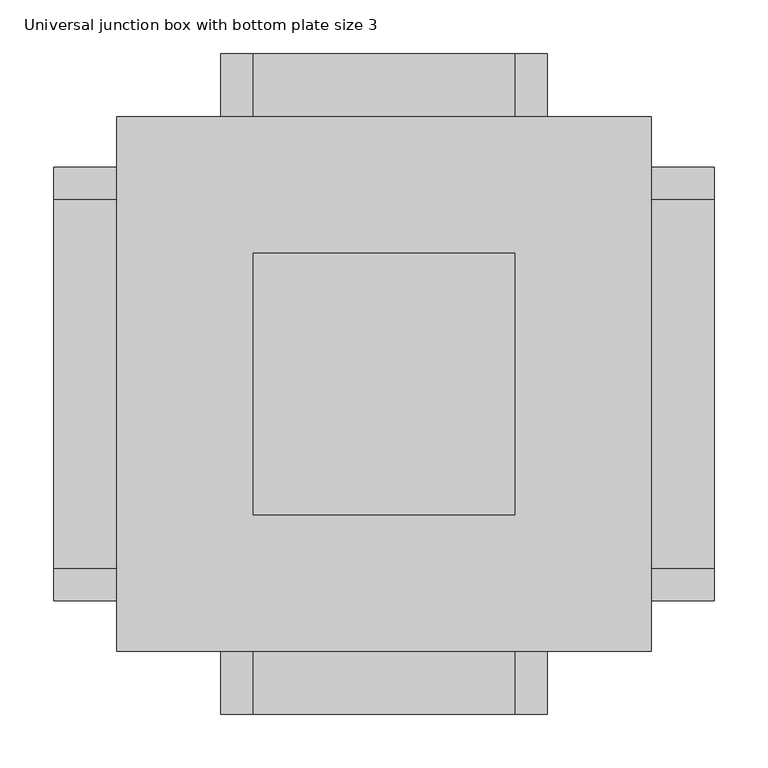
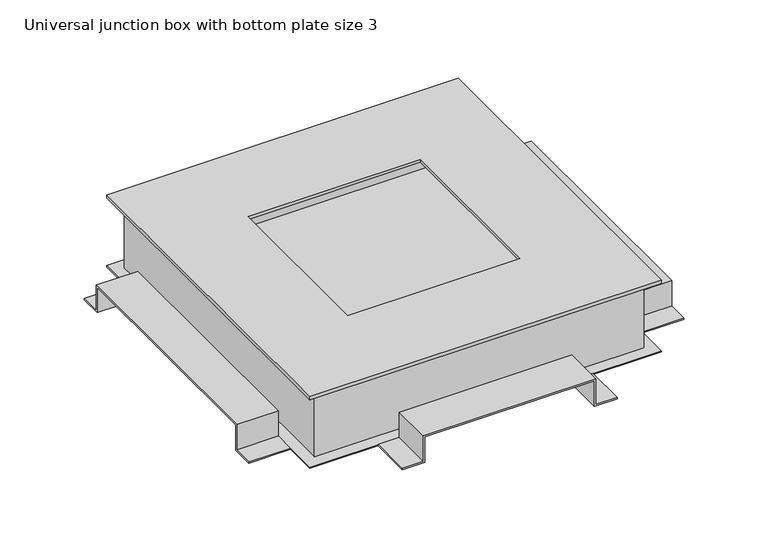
"""IFC4 building model written with IfcOpenShell, lengths in millimetres: cable carrier fitting geometry, Electrical-Installations_Hager_Universal-Junction-Box-With-Bottom-Plate-Size-3 : Universal junction box with bottom plate size 3."""

from ifc_helpers import new_model, si_unit, frame, origin, place, context, project, spatial, polyline, outline, extrude, faceted_brep, source, transform, mapped, element, save


def universal_junction_box_with_bottom_plate_size_3_fc0b7f47(model_context):
    return source(origin(), model_context, "Body", "SolidModel", [
        extrude(outline(polyline([(-19.0, -152.0), (-19.0, -120.0), (19.0, -120.0), (19.0, 120.0), (-19.0, 120.0), (-19.0, 152.0), (-17.0, 152.0), (-17.0, 122.0), (21.0, 122.0), (21.0, -122.0), (-17.0, -122.0), (-17.0, -152.0), (-19.0, -152.0)])), frame((0.0, 249.0, 0.0), z_axis=(0.0, 1.0, 0.0), x_axis=(0.0, 0.0, 1.0)), (0.0, 0.0, 1.0), 59.0),
        extrude(outline(polyline([(-202.0, -19.0), (-202.0, -17.0), (-172.0, -17.0), (-172.0, 21.0), (172.0, 21.0), (172.0, -17.0), (202.0, -17.0), (202.0, -19.0), (170.0, -19.0), (170.0, 19.0), (-170.0, 19.0), (-170.0, -19.0), (-202.0, -19.0)])), frame((-308.0, 0.0, 0.0), z_axis=(1.0, 0.0, 0.0), x_axis=(0.0, 1.0, 0.0)), (0.0, 0.0, 1.0), 59.0),
        extrude(outline(polyline([(-19.0, -152.0), (-19.0, -120.0), (19.0, -120.0), (19.0, 120.0), (-19.0, 120.0), (-19.0, 152.0), (-17.0, 152.0), (-17.0, 122.0), (21.0, 122.0), (21.0, -122.0), (-17.0, -122.0), (-17.0, -152.0), (-19.0, -152.0)])), frame((0.0, -308.0, 0.0), z_axis=(0.0, 1.0, 0.0), x_axis=(0.0, 0.0, 1.0)), (0.0, 0.0, 1.0), 59.0),
        extrude(outline(polyline([(-202.0, -19.0), (-202.0, -17.0), (-172.0, -17.0), (-172.0, 21.0), (172.0, 21.0), (172.0, -17.0), (202.0, -17.0), (202.0, -19.0), (170.0, -19.0), (170.0, 19.0), (-170.0, 19.0), (-170.0, -19.0), (-202.0, -19.0)])), frame((249.0, 0.0, 0.0), z_axis=(1.0, 0.0, 0.0), x_axis=(0.0, 1.0, 0.0)), (0.0, 0.0, 1.0), 59.0),
        faceted_brep([(-249.0, -249.0, 89.0), (249.0, -249.0, 89.0), (249.0, 249.0, 89.0), (-249.0, 249.0, 89.0), (-122.0, 122.0, 89.0), (122.0, 122.0, 89.0), (122.0, -122.0, 89.0), (-122.0, -122.0, 89.0), (-249.0, -249.0, 84.0), (-249.0, 249.0, 84.0), (249.0, 249.0, 84.0), (249.0, -249.0, 84.0), (227.0, 227.0, 84.0), (-227.0, 227.0, 84.0), (-227.0, -227.0, 84.0), (227.0, -227.0, 84.0), (-122.0, 122.0, 84.7820613), (122.0, 122.0, 84.7820613), (122.0, -122.0, 84.7820613), (-122.0, -122.0, 84.7820613), (227.0, 227.0, 84.7820613), (227.0, -227.0, 84.7820613), (-227.0, -227.0, 84.7820613), (-227.0, 227.0, 84.7820613)], [[[0, 1, 2, 3], [4, 5, 6, 7]], [[8, 9, 10, 11], [12, 13, 14, 15]], [[1, 0, 8, 11]], [[2, 1, 11, 10]], [[3, 2, 10, 9]], [[0, 3, 9, 8]], [[5, 4, 16, 17]], [[6, 5, 17, 18]], [[7, 6, 18, 19]], [[4, 7, 19, 16]], [[20, 21, 22, 23], [17, 16, 19, 18]], [[20, 23, 13, 12]], [[23, 22, 14, 13]], [[22, 21, 15, 14]], [[21, 20, 12, 15]]]),
        extrude(outline(polyline([(249.0, 249.0), (249.0, -249.0), (-249.0, -249.0), (-249.0, 249.0), (249.0, 249.0)])), frame((0.0, 0.0, -19.0), z_axis=(0.0, 0.0, 1.0), x_axis=(1.0, 0.0, 0.0)), (0.0, 0.0, 1.0), 2.0),
        faceted_brep([(-233.0, 233.0, 84.0), (-233.0, -233.0, 84.0), (233.0, -233.0, 84.0), (233.0, 233.0, 84.0), (-227.0, 227.0, 84.0), (227.0, 227.0, 84.0), (227.0, -227.0, 84.0), (-227.0, -227.0, 84.0), (-233.0, 233.0, -19.0), (233.0, 233.0, -19.0), (233.0, -233.0, -19.0), (-233.0, -233.0, -19.0), (227.0, 227.0, -11.1362798), (-227.0, 227.0, -11.1362798), (-227.0, -227.0, -11.1362798), (227.0, -227.0, -11.1362798)], [[[0, 1, 2, 3], [4, 5, 6, 7]], [[8, 9, 10, 11]], [[1, 0, 8, 11]], [[2, 1, 11, 10]], [[3, 2, 10, 9]], [[0, 3, 9, 8]], [[12, 13, 14, 15]], [[13, 12, 5, 4]], [[14, 13, 4, 7]], [[15, 14, 7, 6]], [[12, 15, 6, 5]]]),
    ])


if __name__ == "__main__":
    model = new_model("IFC4")
    model_context = context("Model", 3, world=origin())
    ifc_project = project(units=[si_unit("LENGTHUNIT", "METRE", prefix="MILLI")], contexts=[model_context])
    site = spatial("IfcSite", under=ifc_project)
    building = spatial("IfcBuilding", under=site)
    placement = place(None, origin())
    universal_junction_box_with_bottom_plate_size_3_shape = universal_junction_box_with_bottom_plate_size_3_fc0b7f47(model_context)
    element("IfcCableCarrierFitting", 1, ObjectType="Electrical-Installations_Hager_Universal-Junction-Box-With-Bottom-Plate-Size-3 : Universal junction box with bottom plate size 3", at=placement, inside=building, context=model_context, shape_type="MappedRepresentation", body=[
        mapped(universal_junction_box_with_bottom_plate_size_3_shape, transform((0.0, 0.0, 0.0), x_axis=(1.0, 0.0, 0.0), y_axis=(0.0, 1.0, 0.0), z_axis=(0.0, 0.0, 1.0))),
    ])
    save(model, "model.ifc")
